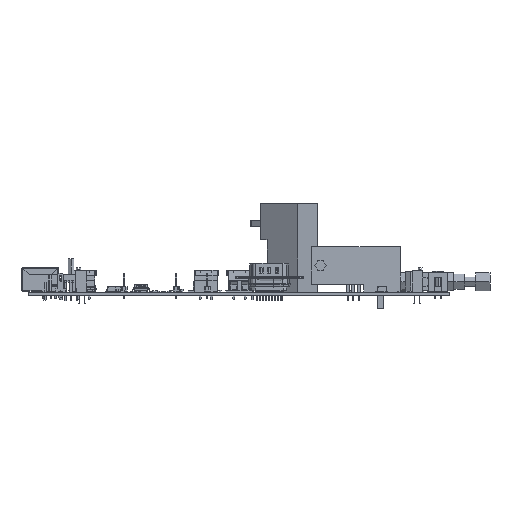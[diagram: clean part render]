
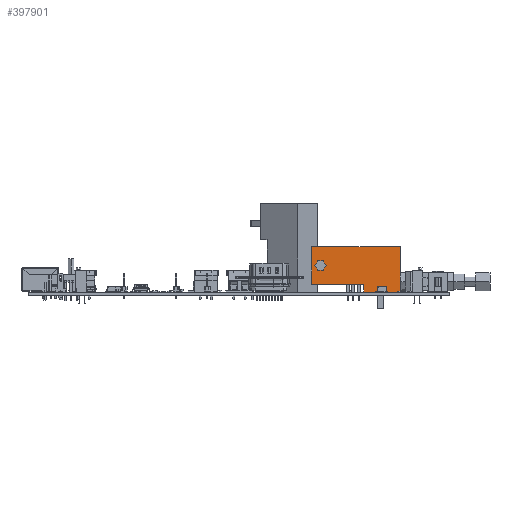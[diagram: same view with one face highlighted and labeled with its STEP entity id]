
A CAD part, left-side view. The second image highlights one B-rep face of the part: STEP entity #397901.
In plain terms, the highlighted planar face has unit normal (-1, 0, 0).
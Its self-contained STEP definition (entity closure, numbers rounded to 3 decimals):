
#761 = VERTEX_POINT ( 'NONE', #564111 ) ;
#16035 = ORIENTED_EDGE ( 'NONE', *, *, #401969, .F. ) ;
#16094 = VECTOR ( 'NONE', #418981, 1000. ) ;
#17952 = LINE ( 'NONE', #392473, #558585 ) ;
#18701 = ORIENTED_EDGE ( 'NONE', *, *, #258911, .F. ) ;
#40619 = CARTESIAN_POINT ( 'NONE',  ( -71.59, -79.46, 3.6 ) ) ;
#41303 = CARTESIAN_POINT ( 'NONE',  ( -71.59, -103.06, 0. ) ) ;
#44795 = AXIS2_PLACEMENT_3D ( 'NONE', #569773, #146581, #189622 ) ;
#44803 = EDGE_LOOP ( 'NONE', ( #413331, #107001 ) ) ;
#70187 = EDGE_CURVE ( 'NONE', #271337, #223608, #191545, .T. ) ;
#72147 = ORIENTED_EDGE ( 'NONE', *, *, #314750, .F. ) ;
#78018 = DIRECTION ( 'NONE',  ( 0., -1., 0. ) ) ;
#86575 = DIRECTION ( 'NONE',  ( 0., 1., 0. ) ) ;
#107001 = ORIENTED_EDGE ( 'NONE', *, *, #557783, .F. ) ;
#109452 = AXIS2_PLACEMENT_3D ( 'NONE', #320613, #458557, #78018 ) ;
#133048 = CARTESIAN_POINT ( 'NONE',  ( -71.59, -103.06, 3.6 ) ) ;
#138768 = LINE ( 'NONE', #504011, #543610 ) ;
#146581 = DIRECTION ( 'NONE',  ( 1., 0., 0. ) ) ;
#171804 = AXIS2_PLACEMENT_3D ( 'NONE', #265407, #452242, #219190 ) ;
#177700 = LINE ( 'NONE', #226843, #408428 ) ;
#189622 = DIRECTION ( 'NONE',  ( 0., 1., 0. ) ) ;
#191545 = CIRCLE ( 'NONE', #171804, 2.5 ) ;
#198732 = VERTEX_POINT ( 'NONE', #41303 ) ;
#219190 = DIRECTION ( 'NONE',  ( 0., -1., 0. ) ) ;
#223608 = VERTEX_POINT ( 'NONE', #387850 ) ;
#226843 = CARTESIAN_POINT ( 'NONE',  ( -71.59, -119.46, 20.6 ) ) ;
#258911 = EDGE_CURVE ( 'NONE', #281593, #761, #556831, .T. ) ;
#265407 = CARTESIAN_POINT ( 'NONE',  ( -71.59, -83.46, 12.1 ) ) ;
#271337 = VERTEX_POINT ( 'NONE', #374797 ) ;
#272958 = FACE_OUTER_BOUND ( 'NONE', #543372, .T. ) ;
#277613 = VERTEX_POINT ( 'NONE', #465772 ) ;
#278171 = VECTOR ( 'NONE', #542014, 1000. ) ;
#281593 = VERTEX_POINT ( 'NONE', #40619 ) ;
#294795 = VECTOR ( 'NONE', #303607, 1000. ) ;
#303607 = DIRECTION ( 'NONE',  ( 0., 1., 0. ) ) ;
#314750 = EDGE_CURVE ( 'NONE', #198732, #368353, #404172, .T. ) ;
#320613 = CARTESIAN_POINT ( 'NONE',  ( -71.59, -83.46, 12.1 ) ) ;
#329442 = ORIENTED_EDGE ( 'NONE', *, *, #357893, .F. ) ;
#343463 = LINE ( 'NONE', #349506, #294795 ) ;
#346378 = DIRECTION ( 'NONE',  ( 0., 0., -1. ) ) ;
#349506 = CARTESIAN_POINT ( 'NONE',  ( -71.59, -119.46, 3.6 ) ) ;
#355111 = CARTESIAN_POINT ( 'NONE',  ( -71.59, -103.06, 3.6 ) ) ;
#357893 = EDGE_CURVE ( 'NONE', #277613, #198732, #138768, .T. ) ;
#358750 = PLANE ( 'NONE',  #44795 ) ;
#368353 = VERTEX_POINT ( 'NONE', #133048 ) ;
#374797 = CARTESIAN_POINT ( 'NONE',  ( -71.59, -85.96, 12.1 ) ) ;
#387850 = CARTESIAN_POINT ( 'NONE',  ( -71.59, -80.96, 12.1 ) ) ;
#388397 = ORIENTED_EDGE ( 'NONE', *, *, #423354, .F. ) ;
#392473 = CARTESIAN_POINT ( 'NONE',  ( -71.59, -119.46, 3.6 ) ) ;
#397901 = ADVANCED_FACE ( 'NONE', ( #272958, #499684 ), #358750, .F. ) ;
#401969 = EDGE_CURVE ( 'NONE', #761, #468036, #177700, .T. ) ;
#404172 = LINE ( 'NONE', #355111, #278171 ) ;
#408428 = VECTOR ( 'NONE', #456964, 1000. ) ;
#412687 = CARTESIAN_POINT ( 'NONE',  ( -71.59, -119.46, 20.6 ) ) ;
#413331 = ORIENTED_EDGE ( 'NONE', *, *, #70187, .F. ) ;
#415998 = CARTESIAN_POINT ( 'NONE',  ( -71.59, -79.46, 3.6 ) ) ;
#418981 = DIRECTION ( 'NONE',  ( 0., 0., 1. ) ) ;
#423354 = EDGE_CURVE ( 'NONE', #468036, #277613, #17952, .T. ) ;
#452242 = DIRECTION ( 'NONE',  ( -1., 0., 0. ) ) ;
#456964 = DIRECTION ( 'NONE',  ( 0., -1., 0. ) ) ;
#458557 = DIRECTION ( 'NONE',  ( -1., 0., 0. ) ) ;
#465772 = CARTESIAN_POINT ( 'NONE',  ( -71.59, -119.46, 0. ) ) ;
#468036 = VERTEX_POINT ( 'NONE', #412687 ) ;
#498638 = ORIENTED_EDGE ( 'NONE', *, *, #536544, .F. ) ;
#499684 = FACE_BOUND ( 'NONE', #44803, .T. ) ;
#504011 = CARTESIAN_POINT ( 'NONE',  ( -71.59, -119.46, 0. ) ) ;
#536544 = EDGE_CURVE ( 'NONE', #368353, #281593, #343463, .T. ) ;
#542014 = DIRECTION ( 'NONE',  ( 0., 0., 1. ) ) ;
#543372 = EDGE_LOOP ( 'NONE', ( #388397, #16035, #18701, #498638, #72147, #329442 ) ) ;
#543610 = VECTOR ( 'NONE', #86575, 1000. ) ;
#556831 = LINE ( 'NONE', #415998, #16094 ) ;
#557783 = EDGE_CURVE ( 'NONE', #223608, #271337, #579788, .T. ) ;
#558585 = VECTOR ( 'NONE', #346378, 1000. ) ;
#564111 = CARTESIAN_POINT ( 'NONE',  ( -71.59, -79.46, 20.6 ) ) ;
#569773 = CARTESIAN_POINT ( 'NONE',  ( -71.59, -119.46, 3.6 ) ) ;
#579788 = CIRCLE ( 'NONE', #109452, 2.5 ) ;
